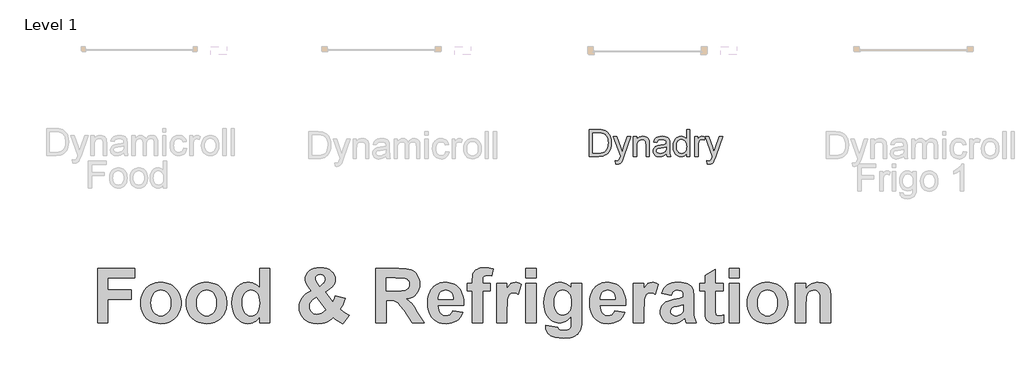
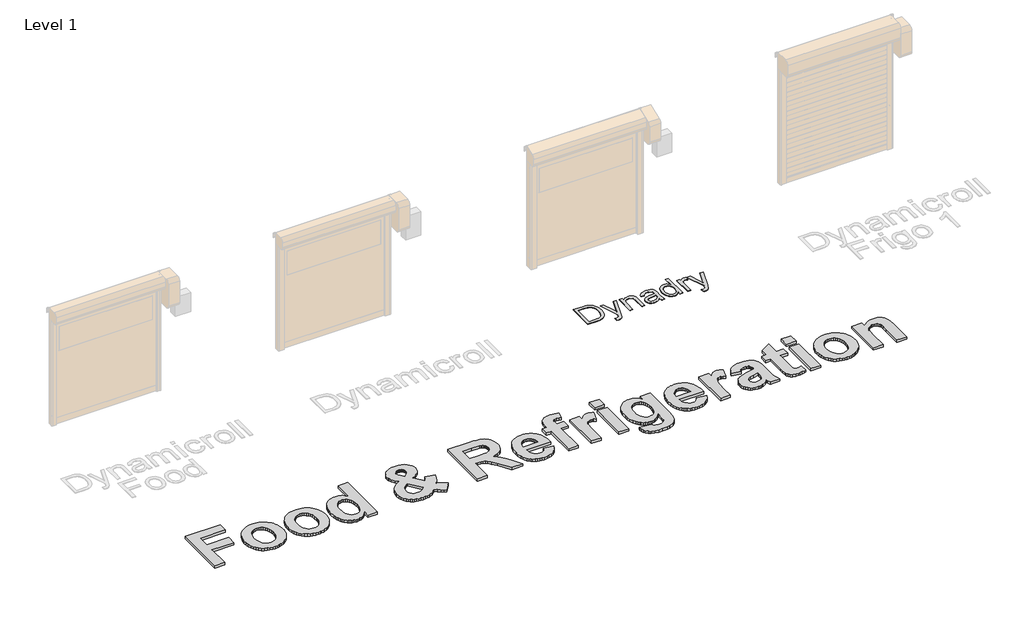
# One storey, part 3 of 20: 2 proxies.
"""IFC4 building model written with IfcOpenShell, lengths in millimetres."""

import ifcopenshell
import ifcopenshell.guid

model = None  # the IFC model being written
_history = None  # IfcOwnerHistory: only IFC2X3 demands one
_inside = {}  # id of a spatial element -> (the spatial element, [elements in it])
_under = {}  # id of a project, library or spatial element -> (it, [spatial elements below it])
_declared = {}  # id of a project -> (the project, [libraries it declares])
_typed = {}  # id of a type object -> (the type object, [elements of that type])
_made_of = {}  # id of a material, layer set ... -> (it, [elements and type objects made of it])


def new_model(schema):
    """Start an empty IFC model of exactly this schema.

    Asked for "IFC4X3", IfcOpenShell would pick the latest addendum, in which some entities
    have other attributes; the version numbers below select the first issue.
    IFC2X3 requires an IfcOwnerHistory on every rooted entity: one is made here for all.
    """
    global model, _history
    if schema == "IFC4X3":
        model = ifcopenshell.file(schema_version=(4, 3, 0, 0))
    else:
        model = ifcopenshell.file(schema=schema)
    _inside.clear()
    _under.clear()
    _declared.clear()
    _typed.clear()
    _made_of.clear()
    _history = None
    if model.schema == "IFC2X3":
        org = make("IfcOrganization", Name="unknown")
        user = make(
            "IfcPersonAndOrganization",
            ThePerson=make("IfcPerson", FamilyName="unknown"),
            TheOrganization=org,
        )
        app = make(
            "IfcApplication",
            ApplicationDeveloper=org,
            Version="unknown",
            ApplicationFullName="unknown",
            ApplicationIdentifier="unknown",
        )
        _history = make(
            "IfcOwnerHistory",
            OwningUser=user,
            OwningApplication=app,
            ChangeAction="ADDED",
            CreationDate=0,
        )
    return model


def make(cls, **values):
    """One entity of the class cls with the attributes given. An attribute that is None is left unset."""
    return model.create_entity(
        cls, **{name: value for name, value in values.items() if value is not None}
    )


def rooted(cls, **values):
    """An entity with a GlobalId (a new one), such as an element, a storey or a relation."""
    return make(cls, GlobalId=ifcopenshell.guid.new(), OwnerHistory=_history, **values)


def si_unit(unit_type, name, prefix=None):
    """IfcSIUnit, for example si_unit("LENGTHUNIT", "METRE", prefix="MILLI")."""
    return make("IfcSIUnit", UnitType=unit_type, Prefix=prefix, Name=name)


def assignment(units):
    """IfcUnitAssignment: the units of a project."""
    return None if units is None else make("IfcUnitAssignment", Units=units)


def point(xyz):
    """IfcCartesianPoint."""
    return None if xyz is None else make("IfcCartesianPoint", Coordinates=xyz)


def direction(xyz):
    """IfcDirection."""
    return None if xyz is None else make("IfcDirection", DirectionRatios=xyz)


def frame(location, z_axis=None, x_axis=None):
    """IfcAxis2Placement3D, a coordinate frame: its origin and axes. An axis left out is left unset."""
    return make(
        "IfcAxis2Placement3D",
        Location=point(location),
        Axis=direction(z_axis),
        RefDirection=direction(x_axis),
    )


def origin():
    """The frame at (0, 0, 0) with its axes left unset."""
    return frame((0.0, 0.0, 0.0))


def origin_with_axes():
    """The frame at (0, 0, 0) with the z axis (0, 0, 1) and the x axis (1, 0, 0) written out."""
    return frame((0.0, 0.0, 0.0), z_axis=(0.0, 0.0, 1.0), x_axis=(1.0, 0.0, 0.0))


def place(relative_to, where):
    """IfcLocalPlacement: puts the frame where relative to a parent placement (None: the world)."""
    return make(
        "IfcLocalPlacement", PlacementRelTo=relative_to, RelativePlacement=where
    )


def context(
    kind, dimensions, precision=None, world=None, true_north=None, identifier=None
):
    """IfcGeometricRepresentationContext, for example the 3D "Model" context."""
    return make(
        "IfcGeometricRepresentationContext",
        ContextIdentifier=identifier,
        ContextType=kind,
        CoordinateSpaceDimension=dimensions,
        Precision=precision,
        WorldCoordinateSystem=world,
        TrueNorth=true_north,
    )


def project(units=None, contexts=None):
    """IfcProject with its units and contexts."""
    return rooted(
        "IfcProject",
        Name="project",
        RepresentationContexts=contexts,
        UnitsInContext=assignment(units),
    )


def spatial(cls, under=None, at=None, **own):
    """A site, building, storey or space (cls), placed at a placement, below another one or the project."""
    s = rooted(cls, ObjectPlacement=at, **own)
    if under is not None:
        _under.setdefault(under.id(), (under, []))[1].append(s)
    return s


def polyline(points):
    """IfcPolyline through the points."""
    return make("IfcPolyline", Points=[point(p) for p in points])


def outline(outer, holes=None, kind="AREA"):
    """IfcArbitraryClosedProfileDef: a profile drawn as a closed curve; with holes, ...WithVoids."""
    if holes is None:
        return make("IfcArbitraryClosedProfileDef", ProfileType=kind, OuterCurve=outer)
    return make(
        "IfcArbitraryProfileDefWithVoids",
        ProfileType=kind,
        OuterCurve=outer,
        InnerCurves=holes,
    )


def extrude(swept, where, along, depth):
    """IfcExtrudedAreaSolid: the profile swept, set in the frame where, extruded along a direction by depth."""
    return make(
        "IfcExtrudedAreaSolid",
        SweptArea=swept,
        Position=where,
        ExtrudedDirection=direction(along),
        Depth=depth,
    )


def shape(context_of_items, identifier, shape_type, items):
    """IfcShapeRepresentation: the items that make up one representation, for example the "Body"."""
    return make(
        "IfcShapeRepresentation",
        ContextOfItems=context_of_items,
        RepresentationIdentifier=identifier,
        RepresentationType=shape_type,
        Items=items,
    )


def made_of(thing, what):
    """Note that an element or type object is made of a material, layer set ...; save() writes the relation."""
    if what is not None:
        _made_of.setdefault(what.id(), (what, []))[1].append(thing)
    return thing


def element(
    cls,
    number,
    at=None,
    inside=None,
    cuts=None,
    type_object=None,
    material=None,
    context=None,
    identifier="Body",
    shape_type=None,
    held_by="IfcProductDefinitionShape",
    body=None,
    shapes=None,
    **own,
):
    """One element of the class cls, such as IfcWall. Its Tag is "e" and its number.

    at: its placement. inside: the storey or other place that contains it. cuts: it is an
    opening in that element (IfcRelVoidsElement). A single representation is given by context,
    identifier, shape_type and body (its items); several are given by shapes. held_by: the class
    of the entity that holds the representations. save() writes the other relations.
    """
    e = rooted(cls, Tag="e%d" % number, ObjectPlacement=at, **own)
    if body is not None:
        shapes = [shape(context, identifier, shape_type, body)]
    if shapes is not None:
        e.Representation = make(held_by, Representations=shapes)
    if inside is not None:
        _inside.setdefault(inside.id(), (inside, []))[1].append(e)
    if cuts is not None:
        rooted(
            "IfcRelVoidsElement", RelatingBuildingElement=cuts, RelatedOpeningElement=e
        )
    if type_object is not None:
        _typed.setdefault(type_object.id(), (type_object, []))[1].append(e)
    return made_of(e, material)


def aggregate(whole, parts):
    """IfcRelAggregates: a whole, such as a stair, and the parts it consists of."""
    return rooted("IfcRelAggregates", RelatingObject=whole, RelatedObjects=parts)


def save(model, path):
    """Write the relations noted so far, then the file.

    IfcRelAggregates (storeys below a building ...), IfcRelContainedInSpatialStructure (elements
    in a storey), IfcRelDefinesByType, IfcRelAssociatesMaterial and IfcRelDeclares: one each for
    every whole, place, type object, material and project.
    """
    for whole, parts in _under.values():
        aggregate(whole, parts)
    for where, things in _inside.values():
        rooted(
            "IfcRelContainedInSpatialStructure",
            RelatedElements=things,
            RelatingStructure=where,
        )
    for kind, things in _typed.values():
        rooted("IfcRelDefinesByType", RelatedObjects=things, RelatingType=kind)
    for what, things in _made_of.values():
        rooted("IfcRelAssociatesMaterial", RelatedObjects=things, RelatingMaterial=what)
    for by, libraries in _declared.values():
        rooted("IfcRelDeclares", RelatingContext=by, RelatedDefinitions=libraries)
    model.write(path)


model = new_model("IFC4")

# Units and contexts
model_context = context("Model", 3, world=origin())
ifc_project = project(units=[si_unit("LENGTHUNIT", "METRE", prefix="MILLI")], contexts=[model_context])

# Site, building, storey
site = spatial("IfcSite", under=ifc_project)
building = spatial("IfcBuilding", under=site)
storey = spatial("IfcBuildingStorey", under=building, Name="Level 1", Elevation=0.0)

# Proxies
placement = place(None, origin())
element("IfcBuildingElementProxy", 1, Name="1000", ObjectType="1000", at=placement, inside=storey, context=model_context, shape_type="SweptSolid", body=[
    extrude(outline(polyline([(1161.4690724, 4455.5744837), (1161.4690724, 5475.8338837), (1857.8365994, 5475.8338837), (1857.8365994, 5297.6933535), (1355.8041962, 5297.6933535), (1355.8041962, 5070.9690424), (1793.0582248, 5070.9690424), (1793.0582248, 4892.8285123), (1355.8041962, 4892.8285123), (1355.8041962, 4455.5744837), (1161.4690724, 4455.5744837)])), origin_with_axes(), (0.0, 0.0, 1.0), 50.0),
    extrude(outline(polyline([(1971.1987549, 4838.6778397), (1974.1957037, 4887.2537132), (1983.1865498, 4935.05465), (1998.1712935, 4982.0806502), (2019.1499346, 5028.3317138), (2045.6163921, 5071.483031), (2077.0645849, 5109.2097919), (2113.4945131, 5141.5119965), (2154.9061766, 5168.3896448), (2200.0897255, 5189.5343438), (2247.8353097, 5204.6377002), (2298.1429293, 5213.699714), (2351.0125841, 5216.7203853), (2391.943866, 5215.008408), (2430.9812978, 5209.872476), (2468.1248793, 5201.3125895), (2503.3746107, 5189.3287483), (2536.7304919, 5173.9209526), (2568.1925229, 5155.0892022), (2597.7607037, 5132.8334972), (2625.4350343, 5107.1538376), (2650.491977, 5078.85679), (2672.207994, 5048.7489212), (2690.5830853, 5016.8302312), (2705.6172509, 4983.1007198), (2717.3104909, 4947.5603872), (2725.6628051, 4910.2092334), (2730.6741936, 4871.0472582), (2732.3446565, 4830.0744619), (2730.6564017, 4788.7833879), (2725.5916374, 4749.2991815), (2717.1503637, 4711.6218426), (2705.3325804, 4675.7513712), (2690.1382875, 4641.6877673), (2671.5674852, 4609.4310309), (2649.6201733, 4578.981162), (2624.296352, 4550.3381606), (2596.414449, 4524.3323159), (2566.7928925, 4501.7939172), (2535.4316823, 4482.7229645), (2502.3308185, 4467.1194577), (2467.4903011, 4454.9833969), (2430.9101301, 4446.314782), (2392.5903055, 4441.113613), (2352.5308273, 4439.3798901), (2302.3892656, 4442.2661336), (2253.4338314, 4450.924864), (2205.6645246, 4465.3560815), (2159.0813453, 4485.559786), (2115.8430455, 4511.3461971), (2078.1083771, 4542.5255344), (2045.8773401, 4579.0977979), (2019.1499346, 4621.0629876), (1998.1712935, 4668.1601554), (1983.1865498, 4720.1283534), (1974.1957037, 4776.9675815), (1971.1987549, 4838.6778397)]), holes=[polyline([(2165.5338787, 4828.0501377), (2168.8945732, 4772.6579851), (2178.9766567, 4724.1453718), (2195.7801291, 4682.5122977), (2219.3049905, 4647.758763), (2247.7641421, 4620.3592186), (2279.3704853, 4600.7881154), (2314.12402, 4589.0454535), (2352.0247462, 4585.1312329), (2389.9096574, 4589.0454535), (2424.6157471, 4600.7881154), (2456.1430151, 4620.3592186), (2484.4914615, 4647.758763), (2507.9056176, 4682.6071879), (2524.6300149, 4724.5249325), (2534.6646532, 4773.5119968), (2538.0095327, 4829.5683808), (2534.6646532, 4884.296302), (2524.6300149, 4932.3344643), (2507.9056176, 4973.6828678), (2484.4914615, 5008.3415123), (2456.1430151, 5035.7410567), (2424.6157471, 5055.3121599), (2389.9096574, 5067.0548218), (2352.0247462, 5070.9690424), (2314.12402, 5067.0548218), (2279.3704853, 5055.3121599), (2247.7641421, 5035.7410567), (2219.3049905, 5008.3415123), (2195.7801291, 4973.5879776), (2178.9766567, 4931.9549036), (2168.8945732, 4883.4422903), (2165.5338787, 4828.0501377)])]), origin_with_axes(), (0.0, 0.0, 1.0), 50.0),
    extrude(outline(polyline([(2829.5122184, 4838.6778397), (2832.5091671, 4887.2537132), (2841.5000133, 4935.05465), (2856.4847569, 4982.0806502), (2877.463398, 5028.3317138), (2903.9298555, 5071.483031), (2935.3780484, 5109.2097919), (2971.8079766, 5141.5119965), (3013.2196401, 5168.3896448), (3058.403189, 5189.5343438), (3106.1487732, 5204.6377002), (3156.4563927, 5213.699714), (3209.3260476, 5216.7203853), (3250.2573295, 5215.008408), (3289.2947612, 5209.872476), (3326.4383428, 5201.3125895), (3361.6880742, 5189.3287483), (3395.0439554, 5173.9209526), (3426.5059864, 5155.0892022), (3456.0741672, 5132.8334972), (3483.7484978, 5107.1538376), (3508.8054405, 5078.85679), (3530.5214575, 5048.7489212), (3548.8965488, 5016.8302312), (3563.9307144, 4983.1007198), (3575.6239543, 4947.5603872), (3583.9762686, 4910.2092334), (3588.9876571, 4871.0472582), (3590.6581199, 4830.0744619), (3588.9698652, 4788.7833879), (3583.9051009, 4749.2991815), (3575.4638271, 4711.6218426), (3563.6460438, 4675.7513712), (3548.451751, 4641.6877673), (3529.8809486, 4609.4310309), (3507.9336368, 4578.981162), (3482.6098154, 4550.3381606), (3454.7279125, 4524.3323159), (3425.1063559, 4501.7939172), (3393.7451458, 4482.7229645), (3360.644282, 4467.1194577), (3325.8037646, 4454.9833969), (3289.2235936, 4446.314782), (3250.903769, 4441.113613), (3210.8442907, 4439.3798901), (3160.702729, 4442.2661336), (3111.7472948, 4450.924864), (3063.9779881, 4465.3560815), (3017.3948088, 4485.559786), (2974.1565089, 4511.3461971), (2936.4218405, 4542.5255344), (2904.1908036, 4579.0977979), (2877.463398, 4621.0629876), (2856.4847569, 4668.1601554), (2841.5000133, 4720.1283534), (2832.5091671, 4776.9675815), (2829.5122184, 4838.6778397)]), holes=[polyline([(3023.8473422, 4828.0501377), (3027.2080367, 4772.6579851), (3037.2901201, 4724.1453718), (3054.0935925, 4682.5122977), (3077.6184539, 4647.758763), (3106.0776055, 4620.3592186), (3137.6839487, 4600.7881154), (3172.4374834, 4589.0454535), (3210.3382097, 4585.1312329), (3248.2231209, 4589.0454535), (3282.9292105, 4600.7881154), (3314.4564785, 4620.3592186), (3342.8049249, 4647.758763), (3366.2190811, 4682.6071879), (3382.9434783, 4724.5249325), (3392.9781167, 4773.5119968), (3396.3229961, 4829.5683808), (3392.9781167, 4884.296302), (3382.9434783, 4932.3344643), (3366.2190811, 4973.6828678), (3342.8049249, 5008.3415123), (3314.4564785, 5035.7410567), (3282.9292105, 5055.3121599), (3248.2231209, 5067.0548218), (3210.3382097, 5070.9690424), (3172.4374834, 5067.0548218), (3137.6839487, 5055.3121599), (3106.0776055, 5035.7410567), (3077.6184539, 5008.3415123), (3054.0935925, 4973.5879776), (3037.2901201, 4931.9549036), (3027.2080367, 4883.4422903), (3023.8473422, 4828.0501377)])]), origin_with_axes(), (0.0, 0.0, 1.0), 50.0),
    extrude(outline(polyline([(4400.3878024, 4455.5744837), (4206.0526786, 4455.5744837), (4206.0526786, 4562.8636666), (4183.3185689, 4533.6137634), (4158.6392101, 4508.3650634), (4132.0146023, 4487.1175667), (4103.4447454, 4469.8712734), (4073.8469114, 4456.5312932), (4044.1383722, 4447.0027359), (4014.3191277, 4441.2856015), (3984.3891781, 4439.3798901), (3954.3821301, 4440.9930234), (3925.4702731, 4445.8324235), (3897.6536072, 4453.8980902), (3870.9321323, 4465.1900237), (3845.3058484, 4479.7082239), (3820.7747556, 4497.4526907), (3774.998143, 4542.6204246), (3754.5670974, 4569.7076221), (3736.8601912, 4599.3489474), (3721.8774245, 4631.5444006), (3709.6187971, 4666.2939816), (3700.0843092, 4703.5976903), (3693.2739607, 4743.4555269), (3687.8256818, 4830.8335834), (3693.2660531, 4919.6824381), (3700.0665173, 4959.860529), (3709.5871671, 4997.2077291), (3721.8280025, 5031.7240384), (3736.7890236, 5063.4094567), (3754.4702303, 5092.2639842), (3774.8716227, 5118.2876207), (3797.3526919, 5141.3577999), (3821.2729291, 5161.3519552), (3846.6323343, 5178.2700866), (3873.4309075, 5192.1121941), (3901.6686487, 5202.8782777), (3931.3455578, 5210.5683375), (3962.461635, 5215.1823733), (3995.0168801, 5216.7203853), (4024.9942749, 5215.1270207), (4053.9436926, 5210.346927), (4081.8651331, 5202.3801042), (4108.7585965, 5191.2265523), (4134.6240827, 5176.8862712), (4159.4615918, 5159.3592611), (4206.0526786, 5114.7450534), (4206.0526786, 5475.8338837), (4400.3878024, 5475.8338837), (4400.3878024, 4455.5744837)]), holes=[polyline([(3882.1608056, 4842.2204071), (3884.1851298, 4785.0965084), (3890.2581025, 4736.4494673), (3900.3797235, 4696.2792839), (3914.5499929, 4664.585958), (3940.2810514, 4629.8245158), (3970.6617295, 4604.9949142), (4005.6920273, 4590.0971532), (4045.3719448, 4585.1312329), (4077.6346118, 4588.8556731), (4107.3668736, 4600.0289939), (4134.5687301, 4618.6511951), (4159.2401814, 4644.7222767), (4179.7206489, 4678.1947938), (4194.3495543, 4719.0213011), (4203.1268976, 4767.2017987), (4206.0526786, 4822.7362866), (4203.2138802, 4884.1539667), (4194.697485, 4936.3198526), (4180.5034931, 4979.2339443), (4160.6319043, 5012.8962417), (4136.3162912, 5038.303092), (4108.7902265, 5056.4508422), (4078.0537102, 5067.3394924), (4044.1067421, 5070.9690424), (4011.0849535, 5067.3790299), (3980.8466107, 5056.6089926), (3953.3917136, 5038.6589303), (3928.7202624, 5013.5288431), (3908.3505001, 4981.2819911), (3893.8006698, 4941.9816344), (3885.0707717, 4895.6277731), (3882.1608056, 4842.2204071)])]), origin_with_axes(), (0.0, 0.0, 1.0), 50.0),
    extrude(outline(polyline([(5890.2904183, 4596.7710971), (5767.3127227, 4439.3798901), (5721.6072778, 4463.1815145), (5676.8507348, 4491.0634174), (5633.0430937, 4523.0255989), (5590.1843547, 4559.0680587), (5559.6138962, 4530.3479591), (5528.1261657, 4505.6765078), (5495.7211634, 4485.053705), (5462.3988892, 4468.4795505), (5427.0206606, 4455.7484491), (5388.4477955, 4446.6548052), (5346.6802937, 4441.1986188), (5301.7181553, 4439.3798901), (5256.8509071, 4441.0800061), (5214.8619948, 4446.1803542), (5175.7514185, 4454.6809343), (5139.5191783, 4466.5817466), (5106.1652739, 4481.8827909), (5075.6897056, 4500.5840672), (5048.0924733, 4522.6855757), (5023.3735769, 4548.1873161), (4991.7118811, 4591.900067), (4969.0963841, 4638.7758244), (4955.5270859, 4688.8145883), (4951.0039865, 4742.0163589), (4954.5386464, 4790.6080474), (4965.1426259, 4836.6851456), (4982.8159251, 4880.2476536), (5007.5585441, 4921.2955714), (5039.3388526, 4959.7814539), (5078.1252207, 4995.6578559), (5123.9176483, 5028.9247775), (5176.7161355, 5059.5822187), (5127.7211637, 5118.3508809), (5092.5801607, 5174.2095769), (5071.4196468, 5227.1583069), (5066.1295183, 5252.5414347), (5064.3661421, 5277.1970709), (5068.9999467, 5320.4037407), (5082.9013606, 5360.1943634), (5106.0703838, 5396.568939), (5138.5070161, 5429.5274674), (5179.5153964, 5456.8716593), (5228.3996629, 5476.4032248), (5285.1598159, 5488.1221642), (5349.7958552, 5492.0284773), (5412.3522177, 5487.9719214), (5467.6811101, 5475.8022536), (5515.7825326, 5455.519474), (5556.656485, 5427.1235824), (5589.2591753, 5392.8761288), (5612.5468111, 5355.0386627), (5626.5193927, 5313.6111841), (5631.1769198, 5268.593693), (5628.7809424, 5239.1223793), (5621.5930099, 5210.4260022), (5609.6131225, 5182.5045617), (5592.8412802, 5155.3580578), (5568.7787077, 5127.7212878), (5534.9266299, 5098.3290493), (5491.2850467, 5067.181342), (5437.8539582, 5034.2781662), (5581.5809768, 4845.0038529), (5608.150232, 4895.8017384), (5630.6708388, 4960.1372921), (5814.3782605, 4919.650808), (5788.631387, 4839.5002214), (5766.5536011, 4784.2741267), (5745.5512375, 4744.9895851), (5723.0306307, 4712.6636579), (5761.9672416, 4680.5275111), (5810.9622134, 4645.354878), (5890.2904183, 4596.7710971)]), holes=[polyline([(5339.6742341, 5145.1099165), (5385.7276098, 5184.837279), (5408.0900663, 5207.0732152), (5424.0632495, 5229.2458913), (5433.6471594, 5251.3553072), (5436.841796, 5273.401463), (5435.2998303, 5291.193375), (5430.6739332, 5307.6251941), (5422.9641047, 5322.6969205), (5412.1703448, 5336.408554), (5398.7671044, 5347.8111926), (5383.2288346, 5355.9559346), (5365.5555354, 5360.8427797), (5345.7472068, 5362.4717281), (5326.4765892, 5361.0325601), (5309.4042613, 5356.7150561), (5294.5302228, 5349.5192162), (5281.854474, 5339.4450403), (5264.4895679, 5314.6470687), (5258.7012659, 5286.3065298), (5261.136781, 5267.5340858), (5268.4433261, 5246.895468), (5297.6695069, 5200.0197106), (5339.6742341, 5145.1099165)]), polyline([(5270.3411301, 4934.074118), (5240.940984, 4916.527339), (5215.4945961, 4897.2883515), (5194.0019665, 4876.3571555), (5176.463095, 4853.733751), (5162.8463517, 4830.1298145), (5153.1201065, 4806.2570224), (5147.2843594, 4782.1153747), (5145.3391103, 4757.7048715), (5147.7034578, 4728.1386676), (5154.7965, 4701.4349846), (5166.6182371, 4677.5938225), (5183.168669, 4656.6151814), (5203.6886741, 4639.5112234), (5227.4191309, 4627.2941105), (5254.3600394, 4619.9638428), (5284.5113995, 4617.5204202), (5325.5039647, 4621.9802595), (5364.9782867, 4635.3597773), (5405.4647709, 4658.9874364), (5449.4938223, 4694.1916995), (5270.3411301, 4934.074118)])]), origin_with_axes(), (0.0, 0.0, 1.0), 50.0),
    extrude(outline(polyline([(6392.3228214, 4455.5744837), (6392.3228214, 5475.8338837), (6821.4795531, 5475.8338837), (6896.9172599, 5474.1100451), (6961.2844436, 5468.9385293), (7014.5811044, 5460.3193364), (7056.8072421, 5448.2524664), (7091.6635745, 5431.7732021), (7122.8508193, 5409.9168267), (7150.3689765, 5382.6833401), (7174.2180461, 5350.0727423), (7193.4807561, 5313.4925713), (7207.2398347, 5274.350365), (7215.4952818, 5232.6461234), (7218.2470976, 5188.3798464), (7214.2696168, 5133.2011967), (7202.3371745, 5083.0517275), (7182.4497707, 5037.9314388), (7154.6074053, 4997.8403305), (7118.8417085, 4963.7431196), (7075.1843103, 4936.6045232), (7023.6352107, 4916.4245413), (6964.1944097, 4903.2031738), (7020.5591868, 4862.5901694), (7066.1697416, 4818.1815572), (7113.3617996, 4753.8460035), (7174.4710866, 4653.4521749), (7299.2200658, 4455.5744837), (7072.2427142, 4455.5744837), (6924.4670471, 4688.624808), (6853.0779888, 4778.1062639), (6808.4479661, 4826.9114553), (6776.2485591, 4850.9186752), (6742.1513483, 4866.0062165), (6696.8887242, 4873.9769931), (6631.1930777, 4876.6339186), (6586.6579452, 4876.6339186), (6586.6579452, 4455.5744837), (6392.3228214, 4455.5744837)]), holes=[polyline([(6586.6579452, 5054.7744488), (6746.832598, 5054.7744488), (6873.2579707, 5057.7160449), (6914.5747441, 5061.39304), (6941.2942421, 5066.5408332), (6975.897534, 5082.5456465), (7002.0239683, 5107.0273173), (7011.5999707, 5122.2809165), (7018.4399724, 5139.3216144), (7023.9119738, 5178.7643064), (7022.10906, 5201.7672717), (7016.7003188, 5222.4454272), (7007.68575, 5240.7987728), (6995.0653538, 5256.8273086), (6979.1554308, 5270.3254391), (6960.2722815, 5281.087569), (6938.4159061, 5289.1136982), (6913.5863045, 5294.4038267), (6755.6890164, 5297.6933535), (6586.6579452, 5297.6933535), (6586.6579452, 5054.7744488)])]), origin_with_axes(), (0.0, 0.0, 1.0), 50.0),
    extrude(outline(polyline([(7833.6416563, 4682.2987948), (8027.9767801, 4649.9096075), (8006.9744164, 4601.4918844), (7980.6582017, 4559.2262091), (7949.028136, 4523.1125815), (7912.0842193, 4493.1510018), (7870.0004168, 4469.6261404), (7822.950694, 4452.822668), (7770.935051, 4442.7405845), (7713.9534876, 4439.3798901), (7668.4180542, 4441.3607229), (7625.9428297, 4447.3032215), (7586.527814, 4457.2073858), (7550.1730073, 4471.0732159), (7516.8784093, 4488.9007117), (7486.6440203, 4510.6898732), (7459.46984, 4536.4407005), (7435.3558687, 4566.1531935), (7404.1369938, 4620.2247908), (7381.8377975, 4680.970332), (7368.4582797, 4748.3898171), (7363.9984404, 4822.4832461), (7369.9132627, 4909.8454876), (7377.3067906, 4949.7784456), (7387.6577296, 4987.2126284), (7400.9660797, 5022.148036), (7417.231841, 5054.5846684), (7436.4550135, 5084.5225256), (7458.6355971, 5111.9616076), (7483.0777303, 5136.5144461), (7509.0855519, 5157.7935728), (7536.6590617, 5175.7989877), (7565.7982597, 5190.5306908), (7596.503146, 5201.9886821), (7628.7737206, 5210.1729617), (7662.6099834, 5215.0835294), (7698.0119344, 5216.7203853), (7737.5534704, 5215.040038), (7774.9520693, 5209.9989963), (7810.2077313, 5201.5972601), (7843.3204564, 5189.8348294), (7874.2902445, 5174.7117042), (7903.1170956, 5156.2278846), (7929.8010098, 5134.3833704), (7954.3419871, 5109.1781618), (7976.2813914, 5080.5015535), (7995.1605869, 5048.2428402), (8010.9795735, 5012.402022), (8023.7383513, 4972.9790988), (8033.4369202, 4929.9740707), (8040.0752802, 4883.3869376), (8043.6534314, 4833.2176996), (8044.1713737, 4779.4663567), (7558.3335642, 4779.4663567), (7561.9552067, 4735.9750163), (7570.7958101, 4697.6077466), (7584.8553743, 4664.3645475), (7604.1338994, 4636.2454191), (7627.3661827, 4613.8829626), (7653.2870215, 4597.9097795), (7681.896416, 4588.3258695), (7713.194366, 4585.1312329), (7753.9971508, 4590.8879049), (7771.7890627, 4598.0837448), (7787.8413211, 4608.1579208), (7802.0906657, 4621.4267333), (7814.4738364, 4638.2064832), (7833.6416563, 4682.2987948)]), holes=[polyline([(7849.8362499, 4892.8285123), (7846.3727577, 4933.860615), (7838.0066053, 4969.6579419), (7824.7377928, 5000.2204929), (7806.56632, 5025.548268), (7784.8364649, 5045.4198568), (7760.8925051, 5059.6138488), (7734.7344407, 5068.130244), (7706.3622718, 5070.9690424), (7676.2188192, 5067.9800012), (7648.7955522, 5059.0128776), (7624.0924709, 5044.0676715), (7602.1095752, 5023.144383), (7584.206958, 4996.9705036), (7571.4916716, 4966.5265654), (7563.9637159, 4931.8125683), (7561.623091, 4892.8285123), (7849.8362499, 4892.8285123)])]), origin_with_axes(), (0.0, 0.0, 1.0), 50.0),
    extrude(outline(polyline([(8108.9497483, 5200.5257916), (8206.1173102, 5200.5257916), (8206.1173102, 5254.9295047), (8211.0516005, 5334.4474899), (8217.2194633, 5365.5240295), (8225.8544712, 5390.812267), (8237.794821, 5412.1704689), (8253.8787095, 5431.4569015), (8274.1061365, 5448.6715647), (8298.4771021, 5463.8144587), (8326.6753057, 5476.1580918), (8358.3844466, 5484.9749727), (8393.6045248, 5490.2651011), (8432.3355403, 5492.0284773), (8514.4471909, 5485.9555047), (8594.7875578, 5467.7365868), (8570.4956673, 5335.3963919), (8524.5055518, 5343.5569488), (8480.1601996, 5346.2771345), (8443.6274737, 5341.4061043), (8429.8446726, 5335.3173167), (8419.0509127, 5326.793014), (8410.9140783, 5314.8052191), (8405.1020537, 5298.3259548), (8400.452434, 5251.8930183), (8400.452434, 5200.5257916), (8546.2037769, 5200.5257916), (8546.2037769, 5054.7744488), (8400.452434, 5054.7744488), (8400.452434, 4455.5744837), (8206.1173102, 4455.5744837), (8206.1173102, 5054.7744488), (8108.9497483, 5054.7744488), (8108.9497483, 5200.5257916)])), origin_with_axes(), (0.0, 0.0, 1.0), 50.0),
    extrude(outline(polyline([(8853.9010562, 4455.5744837), (8659.5659324, 4455.5744837), (8659.5659324, 5200.5257916), (8853.9010562, 5200.5257916), (8853.9010562, 5096.779176), (8894.9568815, 5157.7935728), (8913.8242157, 5178.835474), (8931.5844976, 5193.5671772), (8968.4018941, 5210.9320832), (9010.0270606, 5216.7203853), (9040.6291492, 5214.1583499), (9070.6935267, 5206.472244), (9100.220193, 5193.6620673), (9129.2091483, 5175.7278201), (9072.5280705, 4990.7551957), (9025.7155732, 5014.477745), (9003.6377874, 5020.4083824), (8982.4456433, 5022.3852615), (8945.0905357, 5016.85), (8928.7615143, 5009.9309231), (8913.9981811, 5000.2442155), (8900.7609986, 4986.9516803), (8889.0104292, 4969.215121), (8869.9691296, 4920.4099296), (8862.9393475, 4883.6557932), (8857.9180746, 4831.086624), (8853.9010562, 4678.5031869), (8853.9010562, 4455.5744837)])), origin_with_axes(), (0.0, 0.0, 1.0), 50.0),
    extrude(outline(polyline([(9210.1821165, 5297.6933535), (9210.1821165, 5475.8338837), (9404.5172403, 5475.8338837), (9404.5172403, 5297.6933535), (9210.1821165, 5297.6933535)])), origin_with_axes(), (0.0, 0.0, 1.0), 50.0),
    extrude(outline(polyline([(9210.1821165, 4455.5744837), (9210.1821165, 5200.5257916), (9404.5172403, 5200.5257916), (9404.5172403, 4455.5744837), (9210.1821165, 4455.5744837)])), origin_with_axes(), (0.0, 0.0, 1.0), 50.0),
    extrude(outline(polyline([(9582.6577705, 4406.9907028), (9809.3820816, 4374.6015155), (9818.0487196, 4346.007936), (9833.4209315, 4328.0420587), (9848.4293977, 4320.0712821), (9867.1385816, 4314.3778703), (9915.6591024, 4309.8231409), (9949.3451224, 4311.2623088), (9978.5396731, 4315.5798128), (10003.2427544, 4322.7756528), (10023.4543664, 4332.8498287), (10044.5832503, 4353.0298106), (10059.8922021, 4382.6988123), (10066.3447355, 4417.6184048), (10068.49558, 4473.2873205), (10068.49558, 4581.8417061), (10043.9466952, 4552.2478258), (10018.3777408, 4526.5997963), (9991.7887168, 4504.8976174), (9964.1796232, 4487.1412893), (9935.55046, 4473.3308118), (9905.9012271, 4463.4661851), (9875.2319247, 4457.5474091), (9843.5425526, 4455.5744837), (9808.5478386, 4457.5553166), (9775.427206, 4463.4978152), (9744.1806548, 4473.4019795), (9714.8081851, 4487.2678096), (9687.3097967, 4505.0953054), (9661.6854897, 4526.8844669), (9637.9352641, 4552.6352941), (9616.0591199, 4582.3477871), (9587.2757601, 4635.5179276), (9566.7162174, 4694.8243008), (9554.3804917, 4760.2669068), (9550.2685832, 4831.8457455), (9555.6536019, 4919.9433861), (9562.3848752, 4959.8466909), (9571.8086579, 4996.9863187), (9583.92495, 5031.3622695), (9598.7337514, 5062.9745433), (9616.2350621, 5091.8231401), (9636.4288822, 5117.9080599), (9682.1422347, 5161.1384523), (9706.9738132, 5178.1218207), (9733.1219931, 5192.0173039), (9760.5867746, 5202.824902), (9789.3681575, 5210.5446149), (9819.4661419, 5215.1764427), (9850.8807278, 5216.7203853), (9883.1750249, 5214.8897952), (9914.014339, 5209.398025), (9943.39867, 5200.2450748), (9971.3280181, 5187.4309444), (9997.8023831, 5170.9556339), (10022.8217651, 5150.8191433), (10046.386164, 5127.0214726), (10068.49558, 5099.5626218), (10068.49558, 5200.5257916), (10262.8307038, 5200.5257916), (10262.8307038, 4538.8248167), (10257.5484828, 4424.92495), (10250.9457066, 4380.2870198), (10241.7018199, 4343.8570916), (10230.0777707, 4313.2787255), (10216.3345072, 4286.1954818), (10200.4720292, 4262.6073602), (10182.4903368, 4242.514361), (10161.851719, 4225.1573624), (10138.0184644, 4209.777243), (10080.7680455, 4184.9476414), (10046.8368925, 4175.8144599), (10008.6831257, 4169.2907588), (9919.7077508, 4164.071798), (9834.4172786, 4167.9622961), (9762.5063242, 4179.6337903), (9703.9748876, 4199.0862808), (9679.7264884, 4211.7303995), (9658.8229687, 4226.3197673), (9625.1685788, 4259.5313364), (9601.1297289, 4296.918074), (9586.7064189, 4338.4799804), (9581.8986489, 4384.2170554), (9582.6577705, 4406.9907028)]), holes=[polyline([(9744.603707, 4839.1839208), (9747.4108753, 4781.5855711), (9755.8323803, 4732.2742986), (9769.868222, 4691.2501034), (9789.5184003, 4658.5129854), (9813.2963022, 4633.4936034), (9839.7153146, 4615.6226163), (9868.7754375, 4604.900024), (9900.4766709, 4601.3258266), (9934.4078239, 4604.9949142), (9965.6029762, 4616.0021771), (9994.0621278, 4634.3476152), (10019.7852788, 4660.0312285), (10041.0960355, 4692.9106819), (10056.3180047, 4732.8436398), (10065.4511862, 4779.8301025), (10068.49558, 4833.8700697), (10065.5777064, 4890.2111243), (10056.8240857, 4938.7869978), (10042.2347179, 4979.5976901), (10021.809603, 5012.6432012), (9996.9246488, 5038.1607567), (9968.9557631, 5056.3875821), (9937.9029461, 5067.3236773), (9903.7661977, 5070.9690424), (9870.6257963, 5067.394845), (9840.5376963, 5056.6722527), (9813.5018976, 5038.8012656), (9789.5184003, 5013.7818836), (9769.868222, 4981.4243263), (9755.8323803, 4941.5388135), (9747.4108753, 4894.125345), (9744.603707, 4839.1839208)])]), origin_with_axes(), (0.0, 0.0, 1.0), 50.0),
    extrude(outline(polyline([(10878.2252625, 4682.2987948), (11072.5603863, 4649.9096075), (11051.5580226, 4601.4918844), (11025.241808, 4559.2262091), (10993.6117422, 4523.1125815), (10956.6678255, 4493.1510018), (10914.584023, 4469.6261404), (10867.5343003, 4452.822668), (10815.5186572, 4442.7405845), (10758.5370938, 4439.3798901), (10713.0016604, 4441.3607229), (10670.5264359, 4447.3032215), (10631.1114203, 4457.2073858), (10594.7566135, 4471.0732159), (10561.4620155, 4488.9007117), (10531.2276265, 4510.6898732), (10504.0534463, 4536.4407005), (10479.9394749, 4566.1531935), (10448.7206, 4620.2247908), (10426.4214037, 4680.970332), (10413.0418859, 4748.3898171), (10408.5820466, 4822.4832461), (10414.4968689, 4909.8454876), (10421.8903968, 4949.7784456), (10432.2413358, 4987.2126284), (10445.5496859, 5022.148036), (10461.8154472, 5054.5846684), (10481.0386197, 5084.5225256), (10503.2192033, 5111.9616076), (10527.6613366, 5136.5144461), (10553.6691581, 5157.7935728), (10581.2426679, 5175.7989877), (10610.3818659, 5190.5306908), (10641.0867522, 5201.9886821), (10673.3573268, 5210.1729617), (10707.1935896, 5215.0835294), (10742.5955407, 5216.7203853), (10782.1370766, 5215.040038), (10819.5356755, 5209.9989963), (10854.7913375, 5201.5972601), (10887.9040626, 5189.8348294), (10918.8738507, 5174.7117042), (10947.7007018, 5156.2278846), (10974.384616, 5134.3833704), (10998.9255933, 5109.1781618), (11020.8649976, 5080.5015535), (11039.7441931, 5048.2428402), (11055.5631797, 5012.402022), (11068.3219575, 4972.9790988), (11078.0205264, 4929.9740707), (11084.6588864, 4883.3869376), (11088.2370376, 4833.2176996), (11088.7549799, 4779.4663567), (10602.9171704, 4779.4663567), (10606.538813, 4735.9750163), (10615.3794163, 4697.6077466), (10629.4389805, 4664.3645475), (10648.7175056, 4636.2454191), (10671.9497889, 4613.8829626), (10697.8706277, 4597.9097795), (10726.4800222, 4588.3258695), (10757.7779722, 4585.1312329), (10798.580757, 4590.8879049), (10816.372669, 4598.0837448), (10832.4249273, 4608.1579208), (10846.6742719, 4621.4267333), (10859.0574427, 4638.2064832), (10878.2252625, 4682.2987948)]), holes=[polyline([(10894.4198561, 4892.8285123), (10890.9563639, 4933.860615), (10882.5902116, 4969.6579419), (10869.321399, 5000.2204929), (10851.1499262, 5025.548268), (10829.4200711, 5045.4198568), (10805.4761113, 5059.6138488), (10779.318047, 5068.130244), (10750.945878, 5070.9690424), (10720.8024254, 5067.9800012), (10693.3791584, 5059.0128776), (10668.6760771, 5044.0676715), (10646.6931814, 5023.144383), (10628.7905642, 4996.9705036), (10616.0752778, 4966.5265654), (10608.5473221, 4931.8125683), (10606.2066973, 4892.8285123), (10894.4198561, 4892.8285123)])]), origin_with_axes(), (0.0, 0.0, 1.0), 50.0),
    extrude(outline(polyline([(11428.8414466, 4455.5744837), (11234.5063228, 4455.5744837), (11234.5063228, 5200.5257916), (11428.8414466, 5200.5257916), (11428.8414466, 5096.779176), (11469.8972719, 5157.7935728), (11488.7646061, 5178.835474), (11506.524888, 5193.5671772), (11543.3422845, 5210.9320832), (11584.967451, 5216.7203853), (11615.5695396, 5214.1583499), (11645.6339171, 5206.472244), (11675.1605834, 5193.6620673), (11704.1495386, 5175.7278201), (11647.4684609, 4990.7551957), (11600.6559636, 5014.477745), (11578.5781777, 5020.4083824), (11557.3860337, 5022.3852615), (11520.0309261, 5016.85), (11503.7019046, 5009.9309231), (11488.9385715, 5000.2442155), (11475.701389, 4986.9516803), (11463.9508195, 4969.215121), (11444.90952, 4920.4099296), (11437.8797379, 4883.6557932), (11432.8584649, 4831.086624), (11428.8414466, 4678.5031869), (11428.8414466, 4455.5744837)])), origin_with_axes(), (0.0, 0.0, 1.0), 50.0),
    extrude(outline(polyline([(11947.0684434, 4973.8014805), (11768.9279132, 5006.1906678), (11785.6681255, 5056.355952), (11807.5482235, 5099.5626218), (11834.5682071, 5135.8106771), (11866.7280765, 5165.100118), (11905.6567798, 5187.6839849), (11952.9832657, 5203.8153184), (12008.707534, 5213.4941186), (12072.8295847, 5216.7203853), (12130.9814605, 5214.7672287), (12181.1941899, 5208.907759), (12223.4677727, 5199.1419762), (12257.8022091, 5185.4698803), (12285.9213375, 5168.8008357), (12309.5489966, 5150.0442067), (12328.6851863, 5129.1999934), (12343.3299068, 5106.2681958), (12354.1790193, 5077.271333), (12361.9283854, 5038.2319244), (12366.5780051, 4989.1499699), (12368.1278783, 4930.0254695), (12368.1278783, 4700.2646721), (12370.6899136, 4614.9900149), (12378.3760196, 4555.5254914), (12393.0840002, 4507.2580111), (12416.7116592, 4455.5744837), (12222.3765354, 4455.5744837), (12204.1576176, 4517.316372), (12197.3255234, 4541.861303), (12147.0337189, 4497.10476), (12093.3258673, 4465.0635034), (12065.1592938, 4453.8269226), (12036.0754483, 4445.8007934), (12006.074331, 4440.9851159), (11975.1559418, 4439.3798901), (11922.6737552, 4443.2782957), (11876.0589458, 4454.9735125), (11835.3115137, 4474.4655405), (11800.4314587, 4501.7543797), (11772.4783881, 4534.9896712), (11752.5119091, 4572.3210563), (11740.5320217, 4613.7485349), (11736.5387259, 4659.272107), (11738.3179171, 4689.9216406), (11743.6554907, 4718.8631508), (11752.5514467, 4746.0966374), (11765.0057851, 4771.6221004), (11780.6705751, 4794.8543837), (11799.1978861, 4815.208331), (11820.5877181, 4832.6839423), (11844.840071, 4847.2812176), (11907.5308612, 4871.8894087), (11992.8687786, 4893.0815528), (12103.3842282, 4918.0693047), (12173.7927545, 4941.4122932), (12173.7927545, 4961.9085758), (12172.2824189, 4989.2685826), (12167.7514119, 5012.3901607), (12160.1997337, 5031.2733099), (12149.6273843, 5045.9180304), (12134.8798661, 5056.8778481), (12114.8026819, 5064.7062894), (12089.3958316, 5069.4033542), (12058.6593153, 5070.9690424), (12018.3626115, 5065.5919312), (12001.9624225, 5058.8705423), (11988.0610086, 5049.4605977), (11976.0099535, 5036.6662361), (11965.160841, 5019.7915961), (11947.0684434, 4973.8014805)]), holes=[polyline([(12173.7927545, 4795.6609504), (12064.2262068, 4768.7121344), (12002.231278, 4753.2450322), (11966.0464828, 4737.9677105), (11950.6584559, 4724.9835685), (11939.667008, 4710.323033), (11933.0721393, 4693.9861041), (11930.8738497, 4675.9727817), (11932.6372259, 4658.1255171), (11937.9273544, 4641.5276401), (11946.7442352, 4626.1791507), (11959.0878684, 4612.0800489), (11974.1516872, 4600.2899419), (11991.1291249, 4591.8684369), (12010.0201817, 4586.8155339), (12030.8248574, 4585.1312329), (12054.9427825, 4587.092297), (12078.4597364, 4592.9754892), (12101.375719, 4602.7808096), (12123.6907304, 4616.5082581), (12150.8925869, 4642.950993), (12166.7076198, 4674.707579), (12172.0214708, 4707.413067), (12173.7927545, 4760.4883173), (12173.7927545, 4795.6609504)])]), origin_with_axes(), (0.0, 0.0, 1.0), 50.0),
    extrude(outline(polyline([(12918.7440624, 5200.5257916), (12918.7440624, 5054.7744488), (12772.9927195, 5054.7744488), (12772.9927195, 4735.1842647), (12774.0997718, 4658.4813553), (12777.4209287, 4622.2016699), (12784.6642138, 4607.5253194), (12797.5376505, 4595.6324147), (12814.9341867, 4587.7565284), (12835.7467699, 4585.1312329), (12874.2089299, 4589.8124826), (12926.8413592, 4603.8562318), (12934.938656, 4465.6961047), (12898.6115256, 4454.1827608), (12859.9754003, 4445.9589437), (12819.0302802, 4441.0246535), (12775.7761653, 4439.3798901), (12724.0293778, 4443.9346195), (12677.5964413, 4457.5988079), (12639.6719925, 4478.4746513), (12613.450668, 4504.6643457), (12596.1490221, 4538.6350363), (12584.9836089, 4582.8538682), (12580.239099, 4635.6760779), (12578.6575957, 4724.3035221), (12578.6575957, 5054.7744488), (12481.4900338, 5054.7744488), (12481.4900338, 5200.5257916), (12578.6575957, 5200.5257916), (12578.6575957, 5346.2771345), (12772.9927195, 5459.63929), (12772.9927195, 5200.5257916), (12918.7440624, 5200.5257916)])), origin_with_axes(), (0.0, 0.0, 1.0), 50.0),
    extrude(outline(polyline([(13032.1062179, 5297.6933535), (13032.1062179, 5475.8338837), (13226.4413418, 5475.8338837), (13226.4413418, 5297.6933535), (13032.1062179, 5297.6933535)])), origin_with_axes(), (0.0, 0.0, 1.0), 50.0),
    extrude(outline(polyline([(13032.1062179, 4455.5744837), (13032.1062179, 5200.5257916), (13226.4413418, 5200.5257916), (13226.4413418, 4455.5744837), (13032.1062179, 4455.5744837)])), origin_with_axes(), (0.0, 0.0, 1.0), 50.0),
    extrude(outline(polyline([(13372.1926846, 4838.6778397), (13375.1896333, 4887.2537132), (13384.1804795, 4935.05465), (13399.1652231, 4982.0806502), (13420.1438642, 5028.3317138), (13446.6103217, 5071.483031), (13478.0585146, 5109.2097919), (13514.4884428, 5141.5119965), (13555.9001063, 5168.3896448), (13601.0836552, 5189.5343438), (13648.8292394, 5204.6377002), (13699.1368589, 5213.699714), (13752.0065138, 5216.7203853), (13792.9377957, 5215.008408), (13831.9752275, 5209.872476), (13869.118809, 5201.3125895), (13904.3685404, 5189.3287483), (13937.7244216, 5173.9209526), (13969.1864526, 5155.0892022), (13998.7546334, 5132.8334972), (14026.428964, 5107.1538376), (14051.4859067, 5078.85679), (14073.2019237, 5048.7489212), (14091.577015, 5016.8302312), (14106.6111806, 4983.1007198), (14118.3044205, 4947.5603872), (14126.6567348, 4910.2092334), (14131.6681233, 4871.0472582), (14133.3385862, 4830.0744619), (14131.6503314, 4788.7833879), (14126.5855671, 4749.2991815), (14118.1442933, 4711.6218426), (14106.32651, 4675.7513712), (14091.1322172, 4641.6877673), (14072.5614149, 4609.4310309), (14050.614103, 4578.981162), (14025.2902816, 4550.3381606), (13997.4083787, 4524.3323159), (13967.7868222, 4501.7939172), (13936.425612, 4482.7229645), (13903.3247482, 4467.1194577), (13868.4842308, 4454.9833969), (13831.9040598, 4446.314782), (13793.5842352, 4441.113613), (13753.524757, 4439.3798901), (13703.3831953, 4442.2661336), (13654.427761, 4450.924864), (13606.6584543, 4465.3560815), (13560.075275, 4485.559786), (13516.8369752, 4511.3461971), (13479.1023067, 4542.5255344), (13446.8712698, 4579.0977979), (13420.1438642, 4621.0629876), (13399.1652231, 4668.1601554), (13384.1804795, 4720.1283534), (13375.1896333, 4776.9675815), (13372.1926846, 4838.6778397)]), holes=[polyline([(13566.5278084, 4828.0501377), (13569.8885029, 4772.6579851), (13579.9705863, 4724.1453718), (13596.7740588, 4682.5122977), (13620.2989201, 4647.758763), (13648.7580718, 4620.3592186), (13680.3644149, 4600.7881154), (13715.1179497, 4589.0454535), (13753.0186759, 4585.1312329), (13790.9035871, 4589.0454535), (13825.6096767, 4600.7881154), (13857.1369447, 4620.3592186), (13885.4853912, 4647.758763), (13908.8995473, 4682.6071879), (13925.6239446, 4724.5249325), (13935.6585829, 4773.5119968), (13939.0034624, 4829.5683808), (13935.6585829, 4884.296302), (13925.6239446, 4932.3344643), (13908.8995473, 4973.6828678), (13885.4853912, 5008.3415123), (13857.1369447, 5035.7410567), (13825.6096767, 5055.3121599), (13790.9035871, 5067.0548218), (13753.0186759, 5070.9690424), (13715.1179497, 5067.0548218), (13680.3644149, 5055.3121599), (13648.7580718, 5035.7410567), (13620.2989201, 5008.3415123), (13596.7740588, 4973.5879776), (13579.9705863, 4931.9549036), (13569.8885029, 4883.4422903), (13566.5278084, 4828.0501377)])]), origin_with_axes(), (0.0, 0.0, 1.0), 50.0),
    extrude(outline(polyline([(14943.0682687, 4455.5744837), (14748.7331449, 4455.5744837), (14748.7331449, 4838.4247992), (14745.6966586, 4938.6288474), (14741.9010507, 4972.599538), (14736.5871996, 4995.8160063), (14720.5823864, 5027.5093321), (14696.8598371, 5051.2318814), (14666.5582341, 5066.0347522), (14630.8162598, 5070.9690424), (14606.6587972, 5069.2056662), (14583.7823521, 5063.9155378), (14562.1869247, 5055.0986569), (14541.872515, 5042.7550238), (14523.7484874, 5027.4935171), (14508.7242062, 5009.9230156), (14496.7996714, 4990.0435193), (14487.974883, 4967.8550282), (14481.6093323, 4939.5698419), (14477.0625104, 4901.4002601), (14473.4250528, 4795.4079098), (14473.4250528, 4455.5744837), (14279.089929, 4455.5744837), (14279.089929, 5200.5257916), (14473.4250528, 5200.5257916), (14473.4250528, 5093.2366087), (14497.2622611, 5122.1781188), (14522.59399, 5147.2607609), (14549.4202395, 5168.484535), (14577.7410096, 5185.8494411), (14607.5563003, 5199.3554792), (14638.8661116, 5209.0026492), (14671.6704435, 5214.7909513), (14705.969296, 5216.7203853), (14765.0542588, 5210.837193), (14792.604046, 5203.4832028), (14818.8253705, 5193.1876164), (14863.7400638, 5166.4285808), (14881.5477908, 5150.6293629), (14896.2557714, 5133.2170118), (14918.5549677, 5094.343661), (14932.8201274, 5050.5992801), (14940.5062333, 4994.3926533), (14943.0682687, 4918.1325648), (14943.0682687, 4455.5744837)])), origin_with_axes(), (0.0, 0.0, 1.0), 50.0),
])
element("IfcBuildingElementProxy", 2, Name="500mm", ObjectType="500mm", at=placement, inside=storey, context=model_context, shape_type="SweptSolid", body=[
    extrude(outline(polyline([(10402.5904997, 7588.4925899), (10402.5904997, 8090.7741406), (10575.8629195, 8090.7741406), (10627.6423103, 8088.9653875), (10665.5034989, 8083.539128), (10705.5413228, 8069.590269), (10739.3251526, 8047.6093198), (10757.9415144, 8029.6444157), (10774.0593444, 8009.3495923), (10787.6786424, 7986.7248496), (10798.7994085, 7961.7701876), (10813.6066588, 7905.7908107), (10818.5424089, 7842.3311665), (10815.2008142, 7788.4211258), (10805.1760298, 7740.9796769), (10789.908927, 7700.5892995), (10770.8403769, 7667.8324735), (10748.8900845, 7641.9734349), (10724.9777548, 7622.2764197), (10697.5245609, 7607.6684389), (10664.951676, 7597.0765031), (10627.1977862, 7590.6385682), (10584.201578, 7588.4925899), (10402.5904997, 7588.4925899)]), holes=[polyline([(10465.3756936, 7651.2777837), (10576.4760561, 7651.2777837), (10622.4306487, 7653.5463893), (10657.2874677, 7660.3522062), (10683.5910304, 7671.2966956), (10703.8858538, 7685.9813186), (10725.6981904, 7713.158601), (10742.0842676, 7748.3373168), (10752.3389782, 7791.6707501), (10755.7572151, 7843.3121852), (10754.0825856, 7879.7631595), (10749.0586971, 7911.7382363), (10740.6855496, 7939.2374154), (10728.9631431, 7962.260697), (10714.8418394, 7981.329247), (10699.2720004, 7996.9642318), (10682.253626, 8009.1656513), (10663.7867163, 8017.9335056), (10627.6729671, 8025.4750865), (10574.7592735, 8027.9889468), (10465.3756936, 8027.9889468), (10465.3756936, 7651.2777837)])]), origin_with_axes(), (0.0, 0.0, 1.0), 5.0),
    extrude(outline(polyline([(10897.0239012, 7447.2259037), (10889.175752, 7507.6811782), (10921.0588583, 7502.1629483), (10937.8281459, 7503.8950594), (10950.8572999, 7509.0913926), (10961.0047116, 7517.3840659), (10969.1287723, 7528.4051973), (10986.2965987, 7574.6357014), (10991.201692, 7589.8414905), (10857.7831551, 7957.3556037), (10924.0019142, 7957.3556037), (10994.7578846, 7752.5679597), (11019.4059783, 7670.6529021), (11044.054072, 7743.0030278), (11116.7720797, 7957.3556037), (11182.5003295, 7957.3556037), (11054.1095132, 7579.663422), (11020.754879, 7497.7483644), (11003.679023, 7471.5980859), (10984.3345614, 7453.4798976), (10961.8631029, 7442.9032903), (10935.4062561, 7439.3777545), (10917.2267541, 7441.3397918), (10897.0239012, 7447.2259037)])), origin_with_axes(), (0.0, 0.0, 1.0), 5.0),
    extrude(outline(polyline([(11234.4943182, 7588.4925899), (11234.4943182, 7957.3556037), (11297.279512, 7957.3556037), (11297.279512, 7905.8521244), (11319.0918486, 7931.8184619), (11345.2881124, 7950.3658458), (11375.8683032, 7961.4942761), (11410.8324212, 7965.2037529), (11441.780494, 7962.2147117), (11470.1227361, 7953.2475881), (11493.7591543, 7939.4213564), (11510.5897555, 7921.8549911), (11522.0094258, 7900.5944775), (11529.413051, 7875.6858008), (11532.7239889, 7814.9852715), (11532.7239889, 7588.4925899), (11469.9387951, 7588.4925899), (11469.9387951, 7806.5239857), (11468.1300419, 7838.9895717), (11462.7037825, 7862.0741669), (11452.6943265, 7878.6135283), (11437.1359838, 7891.4434129), (11417.193714, 7899.6747725), (11394.0324767, 7902.4185591), (11374.9677588, 7900.8780532), (11357.2596056, 7896.2565357), (11340.9080174, 7888.5540064), (11325.912994, 7877.7704654), (11313.3858456, 7862.6796394), (11304.4378825, 7842.055255), (11299.0691046, 7815.8973123), (11297.279512, 7784.2058113), (11297.279512, 7588.4925899), (11234.4943182, 7588.4925899)])), origin_with_axes(), (0.0, 0.0, 1.0), 5.0),
    extrude(outline(polyline([(11854.4981074, 7635.5814852), (11824.5003963, 7609.8604024), (11793.6136372, 7593.0298011), (11761.1327227, 7583.7407807), (11726.3525457, 7580.6444406), (11698.3973462, 7582.5068432), (11673.8833761, 7588.094051), (11652.8106356, 7597.406064), (11635.1791246, 7610.4428822), (11621.2570903, 7626.3767711), (11611.3127801, 7644.3799963), (11605.346194, 7664.4525576), (11603.357332, 7686.5944552), (11606.3617016, 7712.6221064), (11615.3748105, 7736.2585246), (11629.2776842, 7756.4920343), (11646.9513484, 7772.3109601), (11667.7213527, 7784.267125), (11690.9132468, 7792.9123518), (11745.2371548, 7802.3546564), (11809.432563, 7812.2874703), (11854.1302254, 7823.9370668), (11854.4981074, 7837.9165826), (11850.1754939, 7865.9369279), (11837.2076536, 7884.269714), (11824.1325143, 7892.2098337), (11808.2062896, 7897.8813478), (11767.8005838, 7902.4185591), (11730.3992477, 7899.398861), (11704.279626, 7890.3397669), (11686.4680061, 7873.5858077), (11673.9906751, 7847.4815145), (11611.2054812, 7855.3296637), (11622.1039853, 7889.6653166), (11638.3674352, 7916.6433295), (11661.5133441, 7937.2753781), (11693.0592251, 7952.5731377), (11731.6408494, 7962.0460991), (11775.8939877, 7965.2037529), (11818.3383729, 7962.4139811), (11851.9842471, 7954.0446657), (11877.3527763, 7941.4600358), (11894.9651268, 7926.0243204), (11906.6453802, 7906.9404419), (11914.2176179, 7883.4113227), (11917.2833012, 7828.474278), (11917.2833012, 7750.3606677), (11920.4716118, 7641.2836562), (11925.1927641, 7614.3209716), (11932.9795997, 7588.4925899), (11870.1944058, 7588.4925899), (11860.1389646, 7610.3202549), (11854.4981074, 7635.5814852)]), holes=[polyline([(11854.4981074, 7761.1518729), (11812.3143052, 7750.6978929), (11753.2079314, 7741.8993818), (11699.1905917, 7731.7213133), (11685.1344338, 7724.7622122), (11674.7264391, 7715.1666235), (11668.2885041, 7703.6703112), (11666.1425258, 7691.0090392), (11670.8176929, 7672.3390279), (11684.8431939, 7657.0412683), (11707.9124607, 7646.8325429), (11739.7189249, 7643.4296345), (11773.4414411, 7647.1850965), (11803.2398827, 7658.4514826), (11827.397467, 7675.0521576), (11844.1974115, 7694.8104865), (11851.6470219, 7715.1666235), (11854.1302254, 7743.3709098), (11854.4981074, 7761.1518729)])]), origin_with_axes(), (0.0, 0.0, 1.0), 5.0),
    extrude(outline(polyline([(12231.2092704, 7588.4925899), (12231.2092704, 7647.7215911), (12212.424296, 7618.3753378), (12189.6692618, 7597.4137282), (12162.9441677, 7584.8367625), (12132.2490137, 7580.6444406), (12091.6593669, 7586.7144935), (12054.5032854, 7604.9246523), (12023.0493748, 7634.0026583), (11999.5662408, 7672.6762531), (11984.9429315, 7719.3819381), (11980.068495, 7772.5562148), (11984.5597211, 7825.0713696), (11998.0333991, 7872.4974901), (12008.1348256, 7893.6277122), (12020.4742009, 7912.1367751), (12035.0515249, 7928.0246788), (12051.8667978, 7941.2914232), (12089.8352854, 7959.2256705), (12132.0037591, 7965.2037529), (12162.7219057, 7960.9271247), (12189.8838596, 7948.0972401), (12212.9071412, 7928.4308818), (12231.2092704, 7903.6448324), (12231.2092704, 8090.7741406), (12293.9944643, 8090.7741406), (12293.9944643, 7588.4925899), (12231.2092704, 7588.4925899)]), holes=[polyline([(12042.8536889, 7772.8014694), (12044.624121, 7742.3554022), (12049.9354173, 7716.0096864), (12058.7875778, 7693.764322), (12071.1806025, 7675.619309), (12085.9801886, 7661.5363264), (12102.0520333, 7651.4770531), (12119.3961365, 7645.4414891), (12138.0124983, 7643.4296345), (12156.7169985, 7645.3495186), (12173.9576349, 7651.1091711), (12189.7344076, 7660.7085919), (12204.0473164, 7674.1477811), (12215.9306713, 7691.5340374), (12224.4187819, 7712.97466), (12229.5116483, 7738.4696487), (12231.2092704, 7768.0190035), (12229.4809915, 7800.4156117), (12224.2961546, 7828.1983665), (12215.6547598, 7851.367268), (12203.5568071, 7869.9223162), (12188.9296657, 7884.1394224), (12172.7007048, 7894.2944983), (12154.8699243, 7900.3875439), (12135.4373243, 7902.4185591), (12116.4530806, 7900.4680181), (12099.1089773, 7894.6163951), (12083.4050147, 7884.8636901), (12069.3411925, 7871.2099031), (12057.7529097, 7853.3561301), (12049.4755648, 7831.0034668), (12044.5091579, 7804.1519132), (12042.8536889, 7772.8014694)])]), origin_with_axes(), (0.0, 0.0, 1.0), 5.0),
    extrude(outline(polyline([(12623.6167319, 7447.2259037), (12615.7685827, 7507.6811782), (12647.651689, 7502.1629483), (12664.4209766, 7503.8950594), (12677.4501306, 7509.0913926), (12687.5975423, 7517.3840659), (12695.721603, 7528.4051973), (12712.8894294, 7574.6357014), (12717.7945227, 7589.8414905), (12584.3759858, 7957.3556037), (12650.5947449, 7957.3556037), (12721.3507153, 7752.5679597), (12745.998809, 7670.6529021), (12770.6469027, 7743.0030278), (12843.3649104, 7957.3556037), (12909.0931602, 7957.3556037), (12780.7023439, 7579.663422), (12747.3477097, 7497.7483644), (12730.2718537, 7471.5980859), (12710.9273921, 7453.4798976), (12688.4559336, 7442.9032903), (12661.9990868, 7439.3777545), (12643.8195848, 7441.3397918), (12623.6167319, 7447.2259037)])), origin_with_axes(), (0.0, 0.0, 1.0), 5.0),
    extrude(outline(polyline([(12388.172255, 7588.4925899), (12388.172255, 7957.3556037), (12443.1092996, 7957.3556037), (12443.1092996, 7902.7864411), (12463.404123, 7934.4242926), (12482.1047911, 7953.0636471), (12500.8667729, 7962.1687265), (12521.3455373, 7965.2037529), (12552.6155069, 7960.3599733), (12584.3759858, 7945.8286345), (12563.4067121, 7889.5426892), (12541.3337924, 7899.1995916), (12519.2608726, 7902.4185591), (12500.5142193, 7899.3222189), (12483.7602601, 7890.0331986), (12470.2252684, 7875.2566051), (12461.1355174, 7855.6975457), (12453.501966, 7820.6261288), (12450.9574489, 7782.3664013), (12450.9574489, 7588.4925899), (12388.172255, 7588.4925899)])), origin_with_axes(), (0.0, 0.0, 1.0), 5.0),
])

save(model, "model.ifc")
